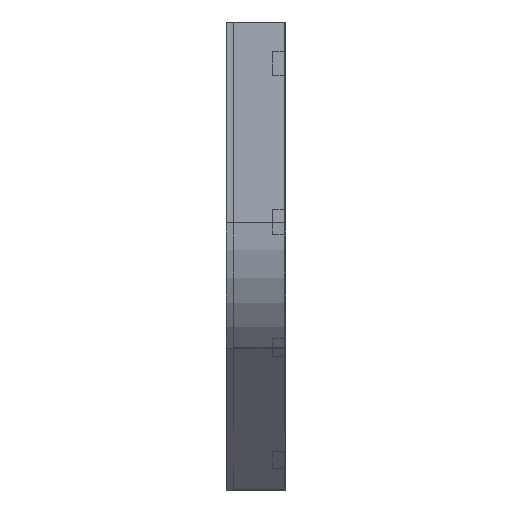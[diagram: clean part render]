
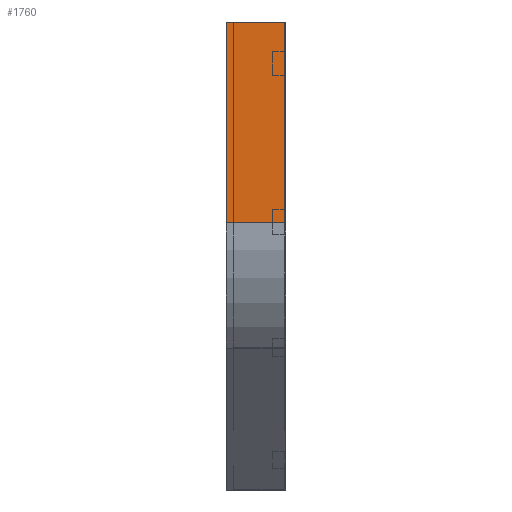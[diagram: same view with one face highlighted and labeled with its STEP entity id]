
A CAD part, left-side view. The second image highlights one B-rep face of the part: STEP entity #1760.
In plain terms, the highlighted planar face has unit normal (-1, 0, 0).
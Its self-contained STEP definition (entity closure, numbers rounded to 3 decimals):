
#43 = VECTOR ( 'NONE', #292, 1000. ) ;
#121 = EDGE_LOOP ( 'NONE', ( #1310, #1130, #561, #475 ) ) ;
#292 = DIRECTION ( 'NONE',  ( 0., 0., -1. ) ) ;
#301 = CARTESIAN_POINT ( 'NONE',  ( 0., 100., 0. ) ) ;
#344 = AXIS2_PLACEMENT_3D ( 'NONE', #612, #913, #741 ) ;
#378 = CARTESIAN_POINT ( 'NONE',  ( 0., 0., -339.949 ) ) ;
#446 = CARTESIAN_POINT ( 'NONE',  ( 0., 100., 0. ) ) ;
#475 = ORIENTED_EDGE ( 'NONE', *, *, #1850, .T. ) ;
#561 = ORIENTED_EDGE ( 'NONE', *, *, #1626, .T. ) ;
#569 = EDGE_CURVE ( 'NONE', #1088, #1218, #1529, .T. ) ;
#588 = DIRECTION ( 'NONE',  ( 0., 0., -1. ) ) ;
#612 = CARTESIAN_POINT ( 'NONE',  ( 0., 0., 0. ) ) ;
#656 = CARTESIAN_POINT ( 'NONE',  ( 0., 0., 0. ) ) ;
#666 = CARTESIAN_POINT ( 'NONE',  ( 0., 0., 0. ) ) ;
#741 = DIRECTION ( 'NONE',  ( 0., 0., -1. ) ) ;
#888 = CARTESIAN_POINT ( 'NONE',  ( 0., 0., 0. ) ) ;
#913 = DIRECTION ( 'NONE',  ( 1., 0., 0. ) ) ;
#921 = VERTEX_POINT ( 'NONE', #1205 ) ;
#931 = VECTOR ( 'NONE', #1809, 1000. ) ;
#947 = LINE ( 'NONE', #378, #1569 ) ;
#1088 = VERTEX_POINT ( 'NONE', #301 ) ;
#1130 = ORIENTED_EDGE ( 'NONE', *, *, #569, .F. ) ;
#1152 = VERTEX_POINT ( 'NONE', #1814 ) ;
#1205 = CARTESIAN_POINT ( 'NONE',  ( 0., 0., -339.949 ) ) ;
#1212 = PLANE ( 'NONE',  #344 ) ;
#1218 = VERTEX_POINT ( 'NONE', #888 ) ;
#1226 = DIRECTION ( 'NONE',  ( 0., -1., 0. ) ) ;
#1227 = LINE ( 'NONE', #666, #1359 ) ;
#1279 = EDGE_CURVE ( 'NONE', #1218, #921, #1227, .T. ) ;
#1283 = LINE ( 'NONE', #446, #43 ) ;
#1310 = ORIENTED_EDGE ( 'NONE', *, *, #1279, .F. ) ;
#1359 = VECTOR ( 'NONE', #588, 1000. ) ;
#1529 = LINE ( 'NONE', #656, #931 ) ;
#1569 = VECTOR ( 'NONE', #1226, 1000. ) ;
#1626 = EDGE_CURVE ( 'NONE', #1088, #1152, #1283, .T. ) ;
#1760 = ADVANCED_FACE ( 'NONE', ( #1790 ), #1212, .F. ) ;
#1790 = FACE_OUTER_BOUND ( 'NONE', #121, .T. ) ;
#1809 = DIRECTION ( 'NONE',  ( 0., -1., 0. ) ) ;
#1814 = CARTESIAN_POINT ( 'NONE',  ( 0., 100., -339.949 ) ) ;
#1850 = EDGE_CURVE ( 'NONE', #1152, #921, #947, .T. ) ;
